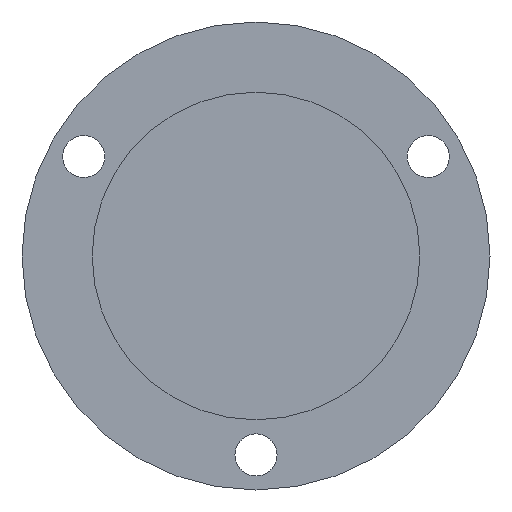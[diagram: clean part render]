
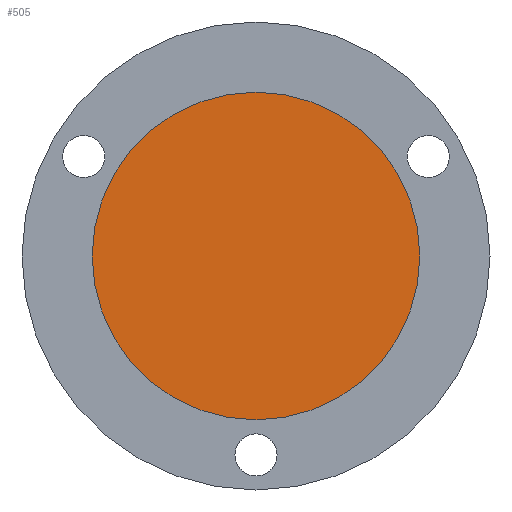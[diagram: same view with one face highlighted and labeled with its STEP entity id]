
A CAD part, front view. The second image highlights one B-rep face of the part: STEP entity #505.
In plain terms, the highlighted planar face has unit normal (0, -1, 0).
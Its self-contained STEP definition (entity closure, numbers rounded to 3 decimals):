
#55 = VERTEX_POINT ( 'NONE', #146 ) ;
#60 = CIRCLE ( 'NONE', #101, 7. ) ;
#101 = AXIS2_PLACEMENT_3D ( 'NONE', #533, #392, #458 ) ;
#126 = AXIS2_PLACEMENT_3D ( 'NONE', #303, #485, #629 ) ;
#146 = CARTESIAN_POINT ( 'NONE',  ( 7., 0., 0. ) ) ;
#184 = CARTESIAN_POINT ( 'NONE',  ( 0., 0., 0. ) ) ;
#216 = PLANE ( 'NONE',  #126 ) ;
#231 = AXIS2_PLACEMENT_3D ( 'NONE', #184, #597, #457 ) ;
#303 = CARTESIAN_POINT ( 'NONE',  ( 0., 0., 0. ) ) ;
#352 = FACE_OUTER_BOUND ( 'NONE', #481, .T. ) ;
#392 = DIRECTION ( 'NONE',  ( 0., -1., 0. ) ) ;
#457 = DIRECTION ( 'NONE',  ( 1., 0., 0. ) ) ;
#458 = DIRECTION ( 'NONE',  ( 1., 0., 0. ) ) ;
#481 = EDGE_LOOP ( 'NONE', ( #691, #499 ) ) ;
#485 = DIRECTION ( 'NONE',  ( 0., 1., 0. ) ) ;
#499 = ORIENTED_EDGE ( 'NONE', *, *, #741, .T. ) ;
#505 = ADVANCED_FACE ( 'NONE', ( #352 ), #216, .F. ) ;
#533 = CARTESIAN_POINT ( 'NONE',  ( 0., 0., 0. ) ) ;
#597 = DIRECTION ( 'NONE',  ( 0., -1., 0. ) ) ;
#629 = DIRECTION ( 'NONE',  ( -1., 0., 0. ) ) ;
#656 = VERTEX_POINT ( 'NONE', #714 ) ;
#691 = ORIENTED_EDGE ( 'NONE', *, *, #807, .T. ) ;
#714 = CARTESIAN_POINT ( 'NONE',  ( -7., 0., 0. ) ) ;
#741 = EDGE_CURVE ( 'NONE', #656, #55, #765, .T. ) ;
#765 = CIRCLE ( 'NONE', #231, 7. ) ;
#807 = EDGE_CURVE ( 'NONE', #55, #656, #60, .T. ) ;
